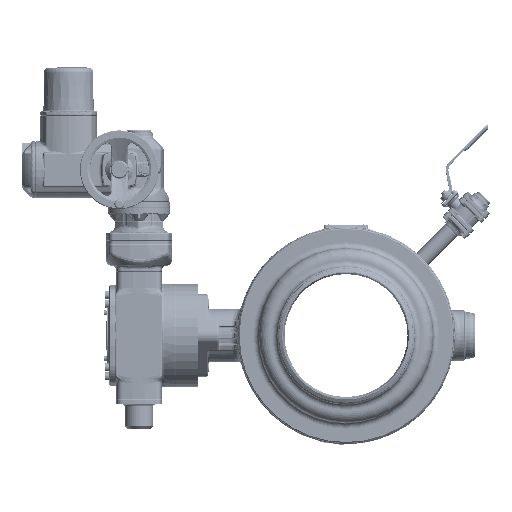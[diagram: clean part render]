
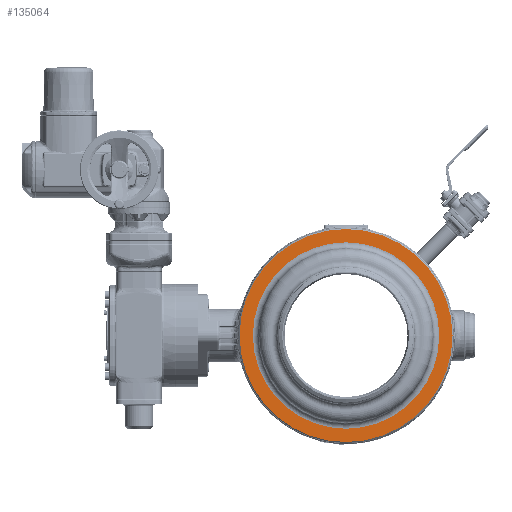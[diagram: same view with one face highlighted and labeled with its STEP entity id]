
A CAD part, left-side view. The second image highlights one B-rep face of the part: STEP entity #135064.
In plain terms, the highlighted planar face has unit normal (-1, 0, 0).
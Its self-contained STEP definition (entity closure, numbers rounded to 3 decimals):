
#37061=CARTESIAN_POINT('',(-135.,0.,0.));
#37062=DIRECTION('',(-1.,0.,0.));
#37063=DIRECTION('',(0.,0.,1.));
#37064=AXIS2_PLACEMENT_3D('',#37061,#37062,#37063);
#37066=CARTESIAN_POINT('',(-135.,0.,0.));
#37067=DIRECTION('',(-1.,0.,0.));
#37068=DIRECTION('',(0.,0.,-1.));
#37069=AXIS2_PLACEMENT_3D('',#37066,#37067,#37068);
#37071=CARTESIAN_POINT('',(-135.,0.,0.));
#37072=DIRECTION('',(1.,0.,0.));
#37073=DIRECTION('',(0.,0.,-1.));
#37074=AXIS2_PLACEMENT_3D('',#37071,#37072,#37073);
#37076=CARTESIAN_POINT('',(-135.,0.,0.));
#37077=DIRECTION('',(1.,0.,0.));
#37078=DIRECTION('',(0.,0.,1.));
#37079=AXIS2_PLACEMENT_3D('',#37076,#37077,#37078);
#69717=CARTESIAN_POINT('',(-135.,0.,-189.5));
#69718=CARTESIAN_POINT('',(-135.,0.,189.5));
#69719=VERTEX_POINT('',#69717);
#69720=VERTEX_POINT('',#69718);
#69793=CARTESIAN_POINT('',(-135.,0.,216.5));
#69794=CARTESIAN_POINT('',(-135.,0.,-216.5));
#69795=VERTEX_POINT('',#69793);
#69796=VERTEX_POINT('',#69794);
#135048=CARTESIAN_POINT('',(-135.,0.,0.));
#135049=DIRECTION('',(-1.,0.,0.));
#135050=DIRECTION('',(0.,0.,1.));
#135051=AXIS2_PLACEMENT_3D('',#135048,#135049,#135050);
#135052=PLANE('',#135051);
#135054=ORIENTED_EDGE('',*,*,#135053,.F.);
#135055=ORIENTED_EDGE('',*,*,#135038,.F.);
#135056=EDGE_LOOP('',(#135054,#135055));
#135057=FACE_OUTER_BOUND('',#135056,.F.);
#135059=ORIENTED_EDGE('',*,*,#135058,.F.);
#135061=ORIENTED_EDGE('',*,*,#135060,.F.);
#135062=EDGE_LOOP('',(#135059,#135061));
#135063=FACE_BOUND('',#135062,.F.);
#135064=ADVANCED_FACE('',(#135057,#135063),#135052,.T.);
#37065=CIRCLE('',#37064,216.5);
#37070=CIRCLE('',#37069,216.5);
#37075=CIRCLE('',#37074,189.5);
#37080=CIRCLE('',#37079,189.5);
#135038=EDGE_CURVE('',#69796,#69795,#37070,.T.);
#135053=EDGE_CURVE('',#69795,#69796,#37065,.T.);
#135058=EDGE_CURVE('',#69719,#69720,#37075,.T.);
#135060=EDGE_CURVE('',#69720,#69719,#37080,.T.);
